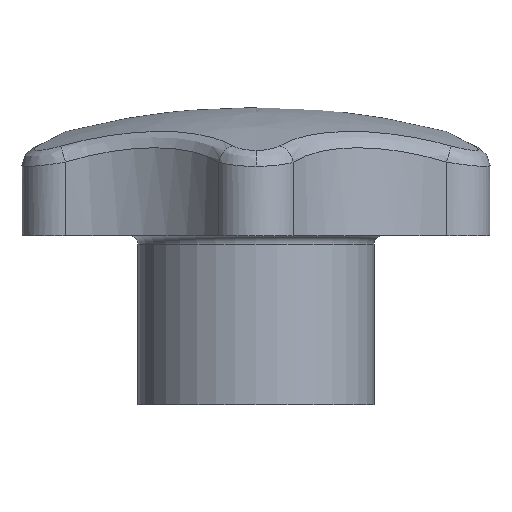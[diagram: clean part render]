
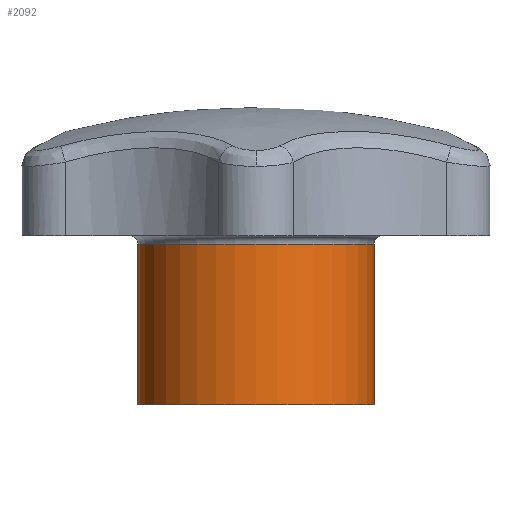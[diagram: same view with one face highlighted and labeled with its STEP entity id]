
A CAD part, left-side view. The second image highlights one B-rep face of the part: STEP entity #2092.
In plain terms, the highlighted cylindrical face has radius 14 mm (diameter 28 mm), a full revolution.
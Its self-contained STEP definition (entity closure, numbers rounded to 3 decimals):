
#2060=CARTESIAN_POINT('',(0.,0.,20.));
#2061=DIRECTION('',(-1.,0.,0.));
#2062=DIRECTION('',(0.,0.,-1.));
#2063=AXIS2_PLACEMENT_3D('',#2060,#2062,#2061);
#2064=CYLINDRICAL_SURFACE('',#2063,14.);
#2065=CARTESIAN_POINT('',(-14.,0.,19.));
#2066=VERTEX_POINT('',#2065);
#2067=CARTESIAN_POINT('',(-14.,0.,0.));
#2068=VERTEX_POINT('',#2067);
#2069=CARTESIAN_POINT('',(-14.,0.,19.));
#2070=DIRECTION('',(0.,0.,-1.));
#2071=VECTOR('',#2070,19.);
#2072=LINE('',#2069,#2071);
#2073=EDGE_CURVE('',#2066,#2068,#2072,.T.);
#2074=ORIENTED_EDGE('E55',*,*,#2073,.F.);
#2075=CARTESIAN_POINT('',(0.,0.,19.));
#2076=DIRECTION('',(-1.,0.,0.));
#2077=DIRECTION('',(0.,0.,1.));
#2078=AXIS2_PLACEMENT_3D('',#2075,#2077,#2076);
#2079=CIRCLE('',#2078,14.);
#2080=EDGE_CURVE('',#2066,#2066,#2079,.T.);
#2081=ORIENTED_EDGE('E123',*,*,#2080,.F.);
#2082=ORIENTED_EDGE('E123',*,*,#2073,.T.);
#2083=CARTESIAN_POINT('',(0.,0.,0.));
#2084=DIRECTION('',(-1.,0.,0.));
#2085=DIRECTION('',(0.,0.,1.));
#2086=AXIS2_PLACEMENT_3D('',#2083,#2085,#2084);
#2087=CIRCLE('',#2086,14.);
#2088=EDGE_CURVE('',#2068,#2068,#2087,.T.);
#2089=ORIENTED_EDGE('E57',*,*,#2088,.T.);
#2090=EDGE_LOOP('',(#2074,#2081,#2082,#2089));
#2091=FACE_OUTER_BOUND('',#2090,.T.);
#2092=ADVANCED_FACE('F50',(#2091),#2064,.T.);
